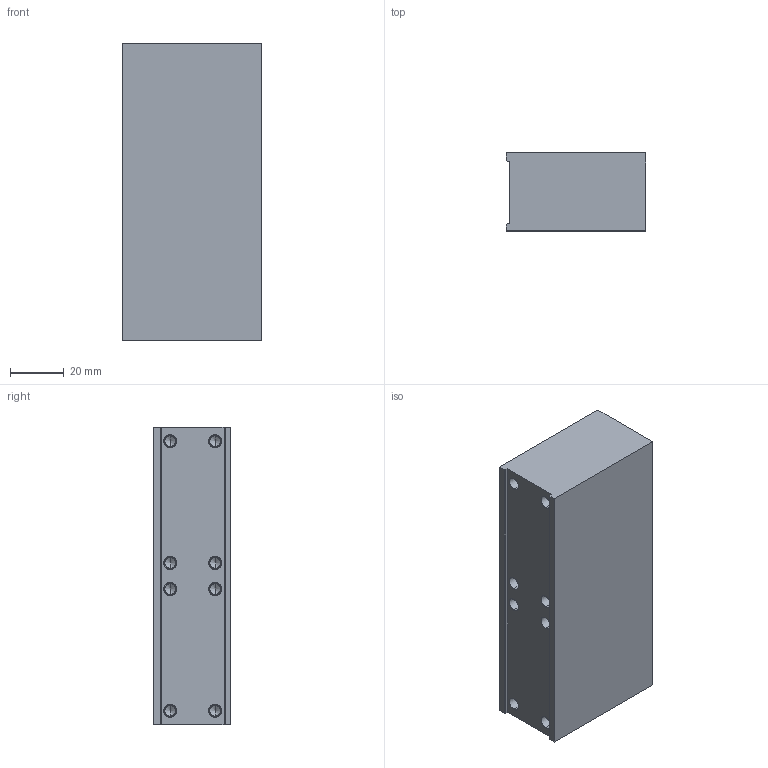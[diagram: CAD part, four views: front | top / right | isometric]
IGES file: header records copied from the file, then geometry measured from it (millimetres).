
Start section: SolidWorks IGES file using analytic representation for surfaces
Global section: file name: C:\temp\GO\Files\SLF-45102.igs; native system: SolidWorks 2023; preprocessor: SolidWorks 2023; author: andrew.sweeney; date: 250415.111612; units: inch
Bounding box: 52.07 x 28.96 x 111.12 mm (x, y, z)
Surface area: 22401.4 mm2 (no closed solid volume)
Topology: 0 solids, 0 shells, 68 faces, 1020 edges, 1004 vertices
Faces by surface type: revolution 48, bspline 20
